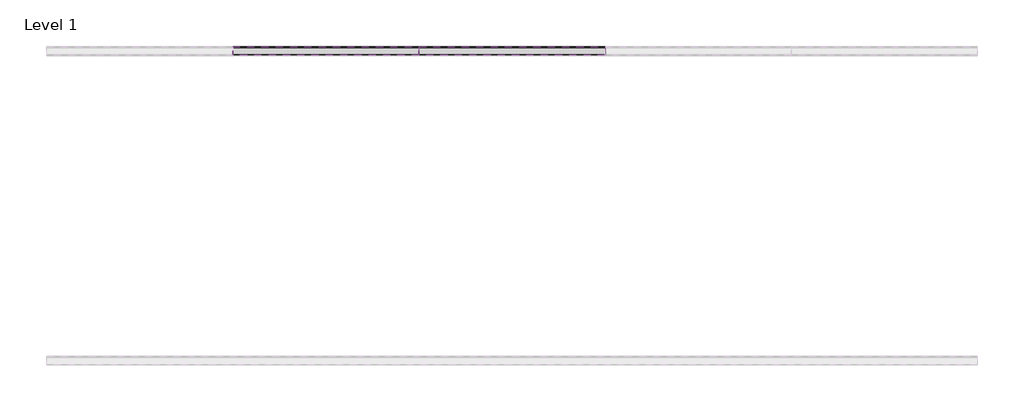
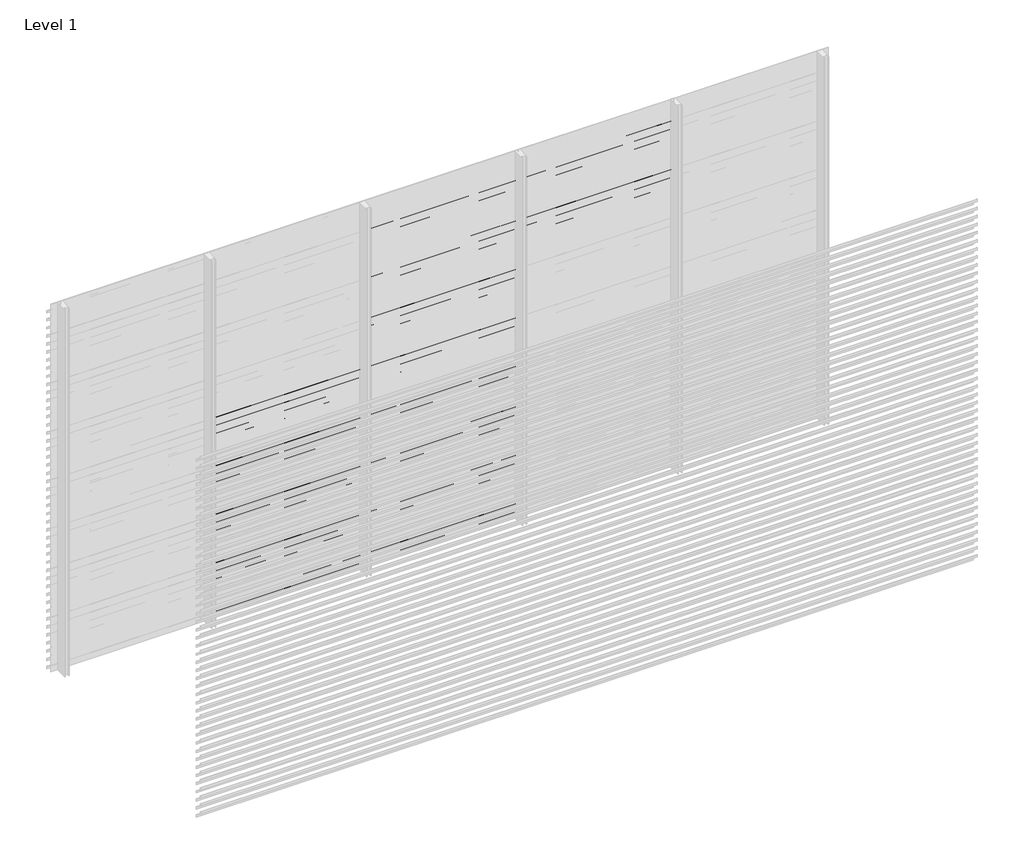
# One storey, part 81 of 540: 84 proxies.
"""IFC4 building model written with IfcOpenShell, lengths in millimetres."""

from ifc_helpers import new_model, si_unit, frame, origin, place, context, project, spatial, polyline, outline, extrude, element, save

model = new_model("IFC4")

# Units and contexts
model_context = context("Model", 3, world=origin())
ifc_project = project(units=[si_unit("LENGTHUNIT", "METRE", prefix="MILLI")], contexts=[model_context])

# Site, building, storey
site = spatial("IfcSite", under=ifc_project)
building = spatial("IfcBuilding", under=site)
storey = spatial("IfcBuildingStorey", under=building, Name="Level 1", Elevation=0.0)

# Proxies
placement = place(None, origin())
element("IfcBuildingElementProxy", 1, Name="Wall Sweeps", at=placement, inside=storey, context=model_context, shape_type="SweptSolid", body=[
    extrude(outline(polyline([(51581.0540136, 1659.5), (51581.0540136, 1639.5), (51579.8040136, 1640.2216933), (51579.8040136, 1658.7872415), (51526.0540136, 1696.3158044), (51526.0540136, 1716.0), (51527.3040136, 1716.0), (51527.3040136, 1697.0285629), (51581.0540136, 1659.5)])), frame((1666.6208099, 0.0, 0.0), z_axis=(1.0, 0.0, 0.0), x_axis=(0.0, 1.0, 0.0)), (0.0, 0.0, 1.0), 1199.9999999),
])
element("IfcBuildingElementProxy", 2, Name="Wall Sweeps", at=placement, inside=storey, context=model_context, shape_type="SweptSolid", body=[
    extrude(outline(polyline([(51581.0540136, 1593.5), (51581.0540136, 1573.5), (51579.8040136, 1574.2216933), (51579.8040136, 1592.7872415), (51526.0540136, 1630.3158044), (51526.0540136, 1650.0), (51527.3040136, 1650.0), (51527.3040136, 1631.0285629), (51581.0540136, 1593.5)])), frame((1666.6208099, 0.0, 0.0), z_axis=(1.0, 0.0, 0.0), x_axis=(0.0, 1.0, 0.0)), (0.0, 0.0, 1.0), 1199.9999999),
])
element("IfcBuildingElementProxy", 3, Name="Wall Sweeps", at=placement, inside=storey, context=model_context, shape_type="SweptSolid", body=[
    extrude(outline(polyline([(51581.0540136, 1527.5), (51581.0540136, 1507.5), (51579.8040136, 1508.2216933), (51579.8040136, 1526.7872415), (51526.0540136, 1564.3158044), (51526.0540136, 1584.0), (51527.3040136, 1584.0), (51527.3040136, 1565.0285629), (51581.0540136, 1527.5)])), frame((1666.6208099, 0.0, 0.0), z_axis=(1.0, 0.0, 0.0), x_axis=(0.0, 1.0, 0.0)), (0.0, 0.0, 1.0), 1199.9999999),
])
element("IfcBuildingElementProxy", 4, Name="Wall Sweeps", at=placement, inside=storey, context=model_context, shape_type="SweptSolid", body=[
    extrude(outline(polyline([(51581.0540136, 1461.5), (51581.0540136, 1441.5), (51579.8040136, 1442.2216933), (51579.8040136, 1460.7872415), (51526.0540136, 1498.3158044), (51526.0540136, 1518.0), (51527.3040136, 1518.0), (51527.3040136, 1499.0285629), (51581.0540136, 1461.5)])), frame((1666.6208099, 0.0, 0.0), z_axis=(1.0, 0.0, 0.0), x_axis=(0.0, 1.0, 0.0)), (0.0, 0.0, 1.0), 1199.9999999),
])
element("IfcBuildingElementProxy", 5, Name="Wall Sweeps", at=placement, inside=storey, context=model_context, shape_type="SweptSolid", body=[
    extrude(outline(polyline([(51581.0540136, 1395.5), (51581.0540136, 1375.5), (51579.8040136, 1376.2216933), (51579.8040136, 1394.7872415), (51526.0540136, 1432.3158044), (51526.0540136, 1452.0), (51527.3040136, 1452.0), (51527.3040136, 1433.0285629), (51581.0540136, 1395.5)])), frame((1666.6208099, 0.0, 0.0), z_axis=(1.0, 0.0, 0.0), x_axis=(0.0, 1.0, 0.0)), (0.0, 0.0, 1.0), 1199.9999999),
])
element("IfcBuildingElementProxy", 6, Name="Wall Sweeps", at=placement, inside=storey, context=model_context, shape_type="SweptSolid", body=[
    extrude(outline(polyline([(51581.0540136, 1329.5), (51581.0540136, 1309.5), (51579.8040136, 1310.2216933), (51579.8040136, 1328.7872415), (51526.0540136, 1366.3158044), (51526.0540136, 1386.0), (51527.3040136, 1386.0), (51527.3040136, 1367.0285629), (51581.0540136, 1329.5)])), frame((1666.6208099, 0.0, 0.0), z_axis=(1.0, 0.0, 0.0), x_axis=(0.0, 1.0, 0.0)), (0.0, 0.0, 1.0), 1199.9999999),
])
element("IfcBuildingElementProxy", 7, Name="Wall Sweeps", at=placement, inside=storey, context=model_context, shape_type="SweptSolid", body=[
    extrude(outline(polyline([(51581.0540136, 1263.5), (51581.0540136, 1243.5), (51579.8040136, 1244.2216933), (51579.8040136, 1262.7872415), (51526.0540136, 1300.3158044), (51526.0540136, 1320.0), (51527.3040136, 1320.0), (51527.3040136, 1301.0285629), (51581.0540136, 1263.5)])), frame((1666.6208099, 0.0, 0.0), z_axis=(1.0, 0.0, 0.0), x_axis=(0.0, 1.0, 0.0)), (0.0, 0.0, 1.0), 1199.9999999),
])
element("IfcBuildingElementProxy", 8, Name="Wall Sweeps", at=placement, inside=storey, context=model_context, shape_type="SweptSolid", body=[
    extrude(outline(polyline([(51581.0540136, 1197.5), (51581.0540136, 1177.5), (51579.8040136, 1178.2216933), (51579.8040136, 1196.7872415), (51526.0540136, 1234.3158044), (51526.0540136, 1254.0), (51527.3040136, 1254.0), (51527.3040136, 1235.0285629), (51581.0540136, 1197.5)])), frame((1666.6208099, 0.0, 0.0), z_axis=(1.0, 0.0, 0.0), x_axis=(0.0, 1.0, 0.0)), (0.0, 0.0, 1.0), 1199.9999999),
])
element("IfcBuildingElementProxy", 9, Name="Wall Sweeps", at=placement, inside=storey, context=model_context, shape_type="SweptSolid", body=[
    extrude(outline(polyline([(51581.0540136, 1131.5), (51581.0540136, 1111.5), (51579.8040136, 1112.2216933), (51579.8040136, 1130.7872415), (51526.0540136, 1168.3158044), (51526.0540136, 1188.0), (51527.3040136, 1188.0), (51527.3040136, 1169.0285629), (51581.0540136, 1131.5)])), frame((1666.6208099, 0.0, 0.0), z_axis=(1.0, 0.0, 0.0), x_axis=(0.0, 1.0, 0.0)), (0.0, 0.0, 1.0), 1199.9999999),
])
element("IfcBuildingElementProxy", 10, Name="Wall Sweeps", at=placement, inside=storey, context=model_context, shape_type="SweptSolid", body=[
    extrude(outline(polyline([(51581.0540136, 1065.5), (51581.0540136, 1045.5), (51579.8040136, 1046.2216933), (51579.8040136, 1064.7872415), (51526.0540136, 1102.3158044), (51526.0540136, 1122.0), (51527.3040136, 1122.0), (51527.3040136, 1103.0285629), (51581.0540136, 1065.5)])), frame((1666.6208099, 0.0, 0.0), z_axis=(1.0, 0.0, 0.0), x_axis=(0.0, 1.0, 0.0)), (0.0, 0.0, 1.0), 1199.9999999),
])
element("IfcBuildingElementProxy", 11, Name="Wall Sweeps", at=placement, inside=storey, context=model_context, shape_type="SweptSolid", body=[
    extrude(outline(polyline([(51581.0540136, 999.5), (51581.0540136, 979.5), (51579.8040136, 980.2216933), (51579.8040136, 998.7872415), (51526.0540136, 1036.3158044), (51526.0540136, 1056.0), (51527.3040136, 1056.0), (51527.3040136, 1037.0285629), (51581.0540136, 999.5)])), frame((1666.6208099, 0.0, 0.0), z_axis=(1.0, 0.0, 0.0), x_axis=(0.0, 1.0, 0.0)), (0.0, 0.0, 1.0), 1199.9999999),
])
element("IfcBuildingElementProxy", 12, Name="Wall Sweeps", at=placement, inside=storey, context=model_context, shape_type="SweptSolid", body=[
    extrude(outline(polyline([(51581.0540136, 933.5), (51581.0540136, 913.5), (51579.8040136, 914.2216933), (51579.8040136, 932.7872415), (51526.0540136, 970.3158044), (51526.0540136, 990.0), (51527.3040136, 990.0), (51527.3040136, 971.0285629), (51581.0540136, 933.5)])), frame((1666.6208099, 0.0, 0.0), z_axis=(1.0, 0.0, 0.0), x_axis=(0.0, 1.0, 0.0)), (0.0, 0.0, 1.0), 1199.9999999),
])
element("IfcBuildingElementProxy", 13, Name="Wall Sweeps", at=placement, inside=storey, context=model_context, shape_type="SweptSolid", body=[
    extrude(outline(polyline([(51581.0540136, 867.5), (51581.0540136, 847.5), (51579.8040136, 848.2216933), (51579.8040136, 866.7872415), (51526.0540136, 904.3158044), (51526.0540136, 924.0), (51527.3040136, 924.0), (51527.3040136, 905.0285629), (51581.0540136, 867.5)])), frame((1666.6208099, 0.0, 0.0), z_axis=(1.0, 0.0, 0.0), x_axis=(0.0, 1.0, 0.0)), (0.0, 0.0, 1.0), 1199.9999999),
])
element("IfcBuildingElementProxy", 14, Name="Wall Sweeps", at=placement, inside=storey, context=model_context, shape_type="SweptSolid", body=[
    extrude(outline(polyline([(51581.0540136, 801.5), (51581.0540136, 781.5), (51579.8040136, 782.2216933), (51579.8040136, 800.7872415), (51526.0540136, 838.3158044), (51526.0540136, 858.0), (51527.3040136, 858.0), (51527.3040136, 839.0285629), (51581.0540136, 801.5)])), frame((1666.6208099, 0.0, 0.0), z_axis=(1.0, 0.0, 0.0), x_axis=(0.0, 1.0, 0.0)), (0.0, 0.0, 1.0), 1199.9999999),
])
element("IfcBuildingElementProxy", 15, Name="Wall Sweeps", at=placement, inside=storey, context=model_context, shape_type="SweptSolid", body=[
    extrude(outline(polyline([(51581.0540136, 735.5), (51581.0540136, 715.5), (51579.8040136, 716.2216933), (51579.8040136, 734.7872415), (51526.0540136, 772.3158044), (51526.0540136, 792.0), (51527.3040136, 792.0), (51527.3040136, 773.0285629), (51581.0540136, 735.5)])), frame((1666.6208099, 0.0, 0.0), z_axis=(1.0, 0.0, 0.0), x_axis=(0.0, 1.0, 0.0)), (0.0, 0.0, 1.0), 1199.9999999),
])
element("IfcBuildingElementProxy", 16, Name="Wall Sweeps", at=placement, inside=storey, context=model_context, shape_type="SweptSolid", body=[
    extrude(outline(polyline([(51581.0540136, 669.5), (51581.0540136, 649.5), (51579.8040136, 650.2216933), (51579.8040136, 668.7872415), (51526.0540136, 706.3158044), (51526.0540136, 726.0), (51527.3040136, 726.0), (51527.3040136, 707.0285629), (51581.0540136, 669.5)])), frame((1666.6208099, 0.0, 0.0), z_axis=(1.0, 0.0, 0.0), x_axis=(0.0, 1.0, 0.0)), (0.0, 0.0, 1.0), 1199.9999999),
])
element("IfcBuildingElementProxy", 17, Name="Wall Sweeps", at=placement, inside=storey, context=model_context, shape_type="SweptSolid", body=[
    extrude(outline(polyline([(51581.0540136, 603.5), (51581.0540136, 583.5), (51579.8040136, 584.2216933), (51579.8040136, 602.7872415), (51526.0540136, 640.3158044), (51526.0540136, 660.0), (51527.3040136, 660.0), (51527.3040136, 641.0285629), (51581.0540136, 603.5)])), frame((1666.6208099, 0.0, 0.0), z_axis=(1.0, 0.0, 0.0), x_axis=(0.0, 1.0, 0.0)), (0.0, 0.0, 1.0), 1199.9999999),
])
element("IfcBuildingElementProxy", 18, Name="Wall Sweeps", at=placement, inside=storey, context=model_context, shape_type="SweptSolid", body=[
    extrude(outline(polyline([(51581.0540136, 537.5), (51581.0540136, 517.5), (51579.8040136, 518.2216933), (51579.8040136, 536.7872415), (51526.0540136, 574.3158044), (51526.0540136, 594.0), (51527.3040136, 594.0), (51527.3040136, 575.0285629), (51581.0540136, 537.5)])), frame((1666.6208099, 0.0, 0.0), z_axis=(1.0, 0.0, 0.0), x_axis=(0.0, 1.0, 0.0)), (0.0, 0.0, 1.0), 1199.9999999),
])
element("IfcBuildingElementProxy", 19, Name="Wall Sweeps", at=placement, inside=storey, context=model_context, shape_type="SweptSolid", body=[
    extrude(outline(polyline([(51581.0540136, 471.5), (51581.0540136, 451.5), (51579.8040136, 452.2216933), (51579.8040136, 470.7872415), (51526.0540136, 508.3158044), (51526.0540136, 528.0), (51527.3040136, 528.0), (51527.3040136, 509.0285629), (51581.0540136, 471.5)])), frame((1666.6208099, 0.0, 0.0), z_axis=(1.0, 0.0, 0.0), x_axis=(0.0, 1.0, 0.0)), (0.0, 0.0, 1.0), 1199.9999999),
])
element("IfcBuildingElementProxy", 20, Name="Wall Sweeps", at=placement, inside=storey, context=model_context, shape_type="SweptSolid", body=[
    extrude(outline(polyline([(51581.0540136, 405.5), (51581.0540136, 385.5), (51579.8040136, 386.2216933), (51579.8040136, 404.7872415), (51526.0540136, 442.3158044), (51526.0540136, 462.0), (51527.3040136, 462.0), (51527.3040136, 443.0285629), (51581.0540136, 405.5)])), frame((1666.6208099, 0.0, 0.0), z_axis=(1.0, 0.0, 0.0), x_axis=(0.0, 1.0, 0.0)), (0.0, 0.0, 1.0), 1199.9999999),
])
element("IfcBuildingElementProxy", 21, Name="Wall Sweeps", at=placement, inside=storey, context=model_context, shape_type="SweptSolid", body=[
    extrude(outline(polyline([(51581.0540136, 339.5), (51581.0540136, 319.5), (51579.8040136, 320.2216933), (51579.8040136, 338.7872415), (51526.0540136, 376.3158044), (51526.0540136, 396.0), (51527.3040136, 396.0), (51527.3040136, 377.0285629), (51581.0540136, 339.5)])), frame((1666.6208099, 0.0, 0.0), z_axis=(1.0, 0.0, 0.0), x_axis=(0.0, 1.0, 0.0)), (0.0, 0.0, 1.0), 1199.9999999),
])
element("IfcBuildingElementProxy", 22, Name="Wall Sweeps", at=placement, inside=storey, context=model_context, shape_type="SweptSolid", body=[
    extrude(outline(polyline([(51581.0540136, 273.5), (51581.0540136, 253.5), (51579.8040136, 254.2216933), (51579.8040136, 272.7872415), (51526.0540136, 310.3158044), (51526.0540136, 330.0), (51527.3040136, 330.0), (51527.3040136, 311.0285629), (51581.0540136, 273.5)])), frame((1666.6208099, 0.0, 0.0), z_axis=(1.0, 0.0, 0.0), x_axis=(0.0, 1.0, 0.0)), (0.0, 0.0, 1.0), 1199.9999999),
])
element("IfcBuildingElementProxy", 23, Name="Wall Sweeps", at=placement, inside=storey, context=model_context, shape_type="SweptSolid", body=[
    extrude(outline(polyline([(51581.0540136, 207.5), (51581.0540136, 187.5), (51579.8040136, 188.2216933), (51579.8040136, 206.7872415), (51526.0540136, 244.3158044), (51526.0540136, 264.0), (51527.3040136, 264.0), (51527.3040136, 245.0285629), (51581.0540136, 207.5)])), frame((1666.6208099, 0.0, 0.0), z_axis=(1.0, 0.0, 0.0), x_axis=(0.0, 1.0, 0.0)), (0.0, 0.0, 1.0), 1199.9999999),
])
element("IfcBuildingElementProxy", 24, Name="Wall Sweeps", at=placement, inside=storey, context=model_context, shape_type="SweptSolid", body=[
    extrude(outline(polyline([(51581.0540136, 141.5), (51581.0540136, 121.5), (51579.8040136, 122.2216933), (51579.8040136, 140.7872415), (51526.0540136, 178.3158044), (51526.0540136, 198.0), (51527.3040136, 198.0), (51527.3040136, 179.0285629), (51581.0540136, 141.5)])), frame((1666.6208099, 0.0, 0.0), z_axis=(1.0, 0.0, 0.0), x_axis=(0.0, 1.0, 0.0)), (0.0, 0.0, 1.0), 1199.9999999),
])
element("IfcBuildingElementProxy", 25, Name="Wall Sweeps", at=placement, inside=storey, context=model_context, shape_type="SweptSolid", body=[
    extrude(outline(polyline([(51581.0540136, 75.5), (51581.0540136, 55.5), (51579.8040136, 56.2216933), (51579.8040136, 74.7872415), (51526.0540136, 112.3158044), (51526.0540136, 132.0), (51527.3040136, 132.0), (51527.3040136, 113.0285629), (51581.0540136, 75.5)])), frame((1666.6208099, 0.0, 0.0), z_axis=(1.0, 0.0, 0.0), x_axis=(0.0, 1.0, 0.0)), (0.0, 0.0, 1.0), 1199.9999999),
])
element("IfcBuildingElementProxy", 26, Name="Wall Sweeps", at=placement, inside=storey, context=model_context, shape_type="SweptSolid", body=[
    extrude(outline(polyline([(51581.0540136, 9.5), (51581.0540136, -10.5), (51579.8040136, -9.7783067), (51579.8040136, 8.7872415), (51526.0540136, 46.3158044), (51526.0540136, 66.0), (51527.3040136, 66.0), (51527.3040136, 47.0285629), (51581.0540136, 9.5)])), frame((1666.6208099, 0.0, 0.0), z_axis=(1.0, 0.0, 0.0), x_axis=(0.0, 1.0, 0.0)), (0.0, 0.0, 1.0), 1199.9999999),
])
element("IfcBuildingElementProxy", 27, Name="Wall Sweeps", at=placement, inside=storey, context=model_context, shape_type="SweptSolid", body=[
    extrude(outline(polyline([(51581.0540136, 2913.5), (51581.0540136, 2893.5), (51579.8040136, 2894.2216933), (51579.8040136, 2912.7872415), (51526.0540136, 2950.3158044), (51526.0540136, 2970.0), (51527.3040136, 2970.0), (51527.3040136, 2951.0285629), (51581.0540136, 2913.5)])), frame((2866.6208097, 0.0, 0.0), z_axis=(1.0, 0.0, 0.0), x_axis=(0.0, 1.0, 0.0)), (0.0, 0.0, 1.0), 1199.9999999),
])
element("IfcBuildingElementProxy", 28, Name="Wall Sweeps", at=placement, inside=storey, context=model_context, shape_type="SweptSolid", body=[
    extrude(outline(polyline([(51581.0540136, 2847.5), (51581.0540136, 2827.5), (51579.8040136, 2828.2216933), (51579.8040136, 2846.7872415), (51526.0540136, 2884.3158044), (51526.0540136, 2904.0), (51527.3040136, 2904.0), (51527.3040136, 2885.0285629), (51581.0540136, 2847.5)])), frame((2866.6208097, 0.0, 0.0), z_axis=(1.0, 0.0, 0.0), x_axis=(0.0, 1.0, 0.0)), (0.0, 0.0, 1.0), 1199.9999999),
])
element("IfcBuildingElementProxy", 29, Name="Wall Sweeps", at=placement, inside=storey, context=model_context, shape_type="SweptSolid", body=[
    extrude(outline(polyline([(51581.0540136, 2781.5), (51581.0540136, 2761.5), (51579.8040136, 2762.2216933), (51579.8040136, 2780.7872415), (51526.0540136, 2818.3158044), (51526.0540136, 2838.0), (51527.3040136, 2838.0), (51527.3040136, 2819.0285629), (51581.0540136, 2781.5)])), frame((2866.6208097, 0.0, 0.0), z_axis=(1.0, 0.0, 0.0), x_axis=(0.0, 1.0, 0.0)), (0.0, 0.0, 1.0), 1199.9999999),
])
element("IfcBuildingElementProxy", 30, Name="Wall Sweeps", at=placement, inside=storey, context=model_context, shape_type="SweptSolid", body=[
    extrude(outline(polyline([(51581.0540136, 2715.5), (51581.0540136, 2695.5), (51579.8040136, 2696.2216933), (51579.8040136, 2714.7872415), (51526.0540136, 2752.3158044), (51526.0540136, 2772.0), (51527.3040136, 2772.0), (51527.3040136, 2753.0285629), (51581.0540136, 2715.5)])), frame((2866.6208097, 0.0, 0.0), z_axis=(1.0, 0.0, 0.0), x_axis=(0.0, 1.0, 0.0)), (0.0, 0.0, 1.0), 1199.9999999),
])
element("IfcBuildingElementProxy", 31, Name="Wall Sweeps", at=placement, inside=storey, context=model_context, shape_type="SweptSolid", body=[
    extrude(outline(polyline([(51581.0540136, 2649.5), (51581.0540136, 2629.5), (51579.8040136, 2630.2216933), (51579.8040136, 2648.7872415), (51526.0540136, 2686.3158044), (51526.0540136, 2706.0), (51527.3040136, 2706.0), (51527.3040136, 2687.0285629), (51581.0540136, 2649.5)])), frame((2866.6208097, 0.0, 0.0), z_axis=(1.0, 0.0, 0.0), x_axis=(0.0, 1.0, 0.0)), (0.0, 0.0, 1.0), 1199.9999999),
])
element("IfcBuildingElementProxy", 32, Name="Wall Sweeps", at=placement, inside=storey, context=model_context, shape_type="SweptSolid", body=[
    extrude(outline(polyline([(51581.0540136, 2583.5), (51581.0540136, 2563.5), (51579.8040136, 2564.2216933), (51579.8040136, 2582.7872415), (51526.0540136, 2620.3158044), (51526.0540136, 2640.0), (51527.3040136, 2640.0), (51527.3040136, 2621.0285629), (51581.0540136, 2583.5)])), frame((2866.6208097, 0.0, 0.0), z_axis=(1.0, 0.0, 0.0), x_axis=(0.0, 1.0, 0.0)), (0.0, 0.0, 1.0), 1199.9999999),
])
element("IfcBuildingElementProxy", 33, Name="Wall Sweeps", at=placement, inside=storey, context=model_context, shape_type="SweptSolid", body=[
    extrude(outline(polyline([(51581.0540136, 2517.5), (51581.0540136, 2497.5), (51579.8040136, 2498.2216933), (51579.8040136, 2516.7872415), (51526.0540136, 2554.3158044), (51526.0540136, 2574.0), (51527.3040136, 2574.0), (51527.3040136, 2555.0285629), (51581.0540136, 2517.5)])), frame((2866.6208097, 0.0, 0.0), z_axis=(1.0, 0.0, 0.0), x_axis=(0.0, 1.0, 0.0)), (0.0, 0.0, 1.0), 1199.9999999),
])
element("IfcBuildingElementProxy", 34, Name="Wall Sweeps", at=placement, inside=storey, context=model_context, shape_type="SweptSolid", body=[
    extrude(outline(polyline([(51581.0540136, 2451.5), (51581.0540136, 2431.5), (51579.8040136, 2432.2216933), (51579.8040136, 2450.7872415), (51526.0540136, 2488.3158044), (51526.0540136, 2508.0), (51527.3040136, 2508.0), (51527.3040136, 2489.0285629), (51581.0540136, 2451.5)])), frame((2866.6208097, 0.0, 0.0), z_axis=(1.0, 0.0, 0.0), x_axis=(0.0, 1.0, 0.0)), (0.0, 0.0, 1.0), 1199.9999999),
])
element("IfcBuildingElementProxy", 35, Name="Wall Sweeps", at=placement, inside=storey, context=model_context, shape_type="SweptSolid", body=[
    extrude(outline(polyline([(51581.0540136, 2385.5), (51581.0540136, 2365.5), (51579.8040136, 2366.2216933), (51579.8040136, 2384.7872415), (51526.0540136, 2422.3158044), (51526.0540136, 2442.0), (51527.3040136, 2442.0), (51527.3040136, 2423.0285629), (51581.0540136, 2385.5)])), frame((2866.6208097, 0.0, 0.0), z_axis=(1.0, 0.0, 0.0), x_axis=(0.0, 1.0, 0.0)), (0.0, 0.0, 1.0), 1199.9999999),
])
element("IfcBuildingElementProxy", 36, Name="Wall Sweeps", at=placement, inside=storey, context=model_context, shape_type="SweptSolid", body=[
    extrude(outline(polyline([(51581.0540136, 2319.5), (51581.0540136, 2299.5), (51579.8040136, 2300.2216933), (51579.8040136, 2318.7872415), (51526.0540136, 2356.3158044), (51526.0540136, 2376.0), (51527.3040136, 2376.0), (51527.3040136, 2357.0285629), (51581.0540136, 2319.5)])), frame((2866.6208097, 0.0, 0.0), z_axis=(1.0, 0.0, 0.0), x_axis=(0.0, 1.0, 0.0)), (0.0, 0.0, 1.0), 1199.9999999),
])
element("IfcBuildingElementProxy", 37, Name="Wall Sweeps", at=placement, inside=storey, context=model_context, shape_type="SweptSolid", body=[
    extrude(outline(polyline([(51581.0540136, 2253.5), (51581.0540136, 2233.5), (51579.8040136, 2234.2216933), (51579.8040136, 2252.7872415), (51526.0540136, 2290.3158044), (51526.0540136, 2310.0), (51527.3040136, 2310.0), (51527.3040136, 2291.0285629), (51581.0540136, 2253.5)])), frame((2866.6208097, 0.0, 0.0), z_axis=(1.0, 0.0, 0.0), x_axis=(0.0, 1.0, 0.0)), (0.0, 0.0, 1.0), 1199.9999999),
])
element("IfcBuildingElementProxy", 38, Name="Wall Sweeps", at=placement, inside=storey, context=model_context, shape_type="SweptSolid", body=[
    extrude(outline(polyline([(51581.0540136, 2187.5), (51581.0540136, 2167.5), (51579.8040136, 2168.2216933), (51579.8040136, 2186.7872415), (51526.0540136, 2224.3158044), (51526.0540136, 2244.0), (51527.3040136, 2244.0), (51527.3040136, 2225.0285629), (51581.0540136, 2187.5)])), frame((2866.6208097, 0.0, 0.0), z_axis=(1.0, 0.0, 0.0), x_axis=(0.0, 1.0, 0.0)), (0.0, 0.0, 1.0), 1199.9999999),
])
element("IfcBuildingElementProxy", 39, Name="Wall Sweeps", at=placement, inside=storey, context=model_context, shape_type="SweptSolid", body=[
    extrude(outline(polyline([(51581.0540136, 2121.5), (51581.0540136, 2101.5), (51579.8040136, 2102.2216933), (51579.8040136, 2120.7872415), (51526.0540136, 2158.3158044), (51526.0540136, 2178.0), (51527.3040136, 2178.0), (51527.3040136, 2159.0285629), (51581.0540136, 2121.5)])), frame((2866.6208097, 0.0, 0.0), z_axis=(1.0, 0.0, 0.0), x_axis=(0.0, 1.0, 0.0)), (0.0, 0.0, 1.0), 1199.9999999),
])
element("IfcBuildingElementProxy", 40, Name="Wall Sweeps", at=placement, inside=storey, context=model_context, shape_type="SweptSolid", body=[
    extrude(outline(polyline([(51581.0540136, 2055.5), (51581.0540136, 2035.5), (51579.8040136, 2036.2216933), (51579.8040136, 2054.7872415), (51526.0540136, 2092.3158044), (51526.0540136, 2112.0), (51527.3040136, 2112.0), (51527.3040136, 2093.0285629), (51581.0540136, 2055.5)])), frame((2866.6208097, 0.0, 0.0), z_axis=(1.0, 0.0, 0.0), x_axis=(0.0, 1.0, 0.0)), (0.0, 0.0, 1.0), 1199.9999999),
])
element("IfcBuildingElementProxy", 41, Name="Wall Sweeps", at=placement, inside=storey, context=model_context, shape_type="SweptSolid", body=[
    extrude(outline(polyline([(51581.0540136, 1989.5), (51581.0540136, 1969.5), (51579.8040136, 1970.2216933), (51579.8040136, 1988.7872415), (51526.0540136, 2026.3158044), (51526.0540136, 2046.0), (51527.3040136, 2046.0), (51527.3040136, 2027.0285629), (51581.0540136, 1989.5)])), frame((2866.6208097, 0.0, 0.0), z_axis=(1.0, 0.0, 0.0), x_axis=(0.0, 1.0, 0.0)), (0.0, 0.0, 1.0), 1199.9999999),
])
element("IfcBuildingElementProxy", 42, Name="Wall Sweeps", at=placement, inside=storey, context=model_context, shape_type="SweptSolid", body=[
    extrude(outline(polyline([(51581.0540136, 1923.5), (51581.0540136, 1903.5), (51579.8040136, 1904.2216933), (51579.8040136, 1922.7872415), (51526.0540136, 1960.3158044), (51526.0540136, 1980.0), (51527.3040136, 1980.0), (51527.3040136, 1961.0285629), (51581.0540136, 1923.5)])), frame((2866.6208097, 0.0, 0.0), z_axis=(1.0, 0.0, 0.0), x_axis=(0.0, 1.0, 0.0)), (0.0, 0.0, 1.0), 1199.9999999),
])
element("IfcBuildingElementProxy", 43, Name="Wall Sweeps", at=placement, inside=storey, context=model_context, shape_type="SweptSolid", body=[
    extrude(outline(polyline([(51581.0540136, 1857.5), (51581.0540136, 1837.5), (51579.8040136, 1838.2216933), (51579.8040136, 1856.7872415), (51526.0540136, 1894.3158044), (51526.0540136, 1914.0), (51527.3040136, 1914.0), (51527.3040136, 1895.0285629), (51581.0540136, 1857.5)])), frame((2866.6208097, 0.0, 0.0), z_axis=(1.0, 0.0, 0.0), x_axis=(0.0, 1.0, 0.0)), (0.0, 0.0, 1.0), 1199.9999999),
])
element("IfcBuildingElementProxy", 44, Name="Wall Sweeps", at=placement, inside=storey, context=model_context, shape_type="SweptSolid", body=[
    extrude(outline(polyline([(51581.0540136, 1791.5), (51581.0540136, 1771.5), (51579.8040136, 1772.2216933), (51579.8040136, 1790.7872415), (51526.0540136, 1828.3158044), (51526.0540136, 1848.0), (51527.3040136, 1848.0), (51527.3040136, 1829.0285629), (51581.0540136, 1791.5)])), frame((2866.6208097, 0.0, 0.0), z_axis=(1.0, 0.0, 0.0), x_axis=(0.0, 1.0, 0.0)), (0.0, 0.0, 1.0), 1199.9999999),
])
element("IfcBuildingElementProxy", 45, Name="Wall Sweeps", at=placement, inside=storey, context=model_context, shape_type="SweptSolid", body=[
    extrude(outline(polyline([(51581.0540136, 1725.5), (51581.0540136, 1705.5), (51579.8040136, 1706.2216933), (51579.8040136, 1724.7872415), (51526.0540136, 1762.3158044), (51526.0540136, 1782.0), (51527.3040136, 1782.0), (51527.3040136, 1763.0285629), (51581.0540136, 1725.5)])), frame((2866.6208097, 0.0, 0.0), z_axis=(1.0, 0.0, 0.0), x_axis=(0.0, 1.0, 0.0)), (0.0, 0.0, 1.0), 1199.9999999),
])
element("IfcBuildingElementProxy", 46, Name="Wall Sweeps", at=placement, inside=storey, context=model_context, shape_type="SweptSolid", body=[
    extrude(outline(polyline([(51581.0540136, 1659.5), (51581.0540136, 1639.5), (51579.8040136, 1640.2216933), (51579.8040136, 1658.7872415), (51526.0540136, 1696.3158044), (51526.0540136, 1716.0), (51527.3040136, 1716.0), (51527.3040136, 1697.0285629), (51581.0540136, 1659.5)])), frame((2866.6208097, 0.0, 0.0), z_axis=(1.0, 0.0, 0.0), x_axis=(0.0, 1.0, 0.0)), (0.0, 0.0, 1.0), 1199.9999999),
])
element("IfcBuildingElementProxy", 47, Name="Wall Sweeps", at=placement, inside=storey, context=model_context, shape_type="SweptSolid", body=[
    extrude(outline(polyline([(51581.0540136, 1593.5), (51581.0540136, 1573.5), (51579.8040136, 1574.2216933), (51579.8040136, 1592.7872415), (51526.0540136, 1630.3158044), (51526.0540136, 1650.0), (51527.3040136, 1650.0), (51527.3040136, 1631.0285629), (51581.0540136, 1593.5)])), frame((2866.6208097, 0.0, 0.0), z_axis=(1.0, 0.0, 0.0), x_axis=(0.0, 1.0, 0.0)), (0.0, 0.0, 1.0), 1199.9999999),
])
element("IfcBuildingElementProxy", 48, Name="Wall Sweeps", at=placement, inside=storey, context=model_context, shape_type="SweptSolid", body=[
    extrude(outline(polyline([(51581.0540136, 1527.5), (51581.0540136, 1507.5), (51579.8040136, 1508.2216933), (51579.8040136, 1526.7872415), (51526.0540136, 1564.3158044), (51526.0540136, 1584.0), (51527.3040136, 1584.0), (51527.3040136, 1565.0285629), (51581.0540136, 1527.5)])), frame((2866.6208097, 0.0, 0.0), z_axis=(1.0, 0.0, 0.0), x_axis=(0.0, 1.0, 0.0)), (0.0, 0.0, 1.0), 1199.9999999),
])
element("IfcBuildingElementProxy", 49, Name="Wall Sweeps", at=placement, inside=storey, context=model_context, shape_type="SweptSolid", body=[
    extrude(outline(polyline([(51581.0540136, 1461.5), (51581.0540136, 1441.5), (51579.8040136, 1442.2216933), (51579.8040136, 1460.7872415), (51526.0540136, 1498.3158044), (51526.0540136, 1518.0), (51527.3040136, 1518.0), (51527.3040136, 1499.0285629), (51581.0540136, 1461.5)])), frame((2866.6208097, 0.0, 0.0), z_axis=(1.0, 0.0, 0.0), x_axis=(0.0, 1.0, 0.0)), (0.0, 0.0, 1.0), 1199.9999999),
])
element("IfcBuildingElementProxy", 50, Name="Wall Sweeps", at=placement, inside=storey, context=model_context, shape_type="SweptSolid", body=[
    extrude(outline(polyline([(51581.0540136, 1395.5), (51581.0540136, 1375.5), (51579.8040136, 1376.2216933), (51579.8040136, 1394.7872415), (51526.0540136, 1432.3158044), (51526.0540136, 1452.0), (51527.3040136, 1452.0), (51527.3040136, 1433.0285629), (51581.0540136, 1395.5)])), frame((2866.6208097, 0.0, 0.0), z_axis=(1.0, 0.0, 0.0), x_axis=(0.0, 1.0, 0.0)), (0.0, 0.0, 1.0), 1199.9999999),
])
element("IfcBuildingElementProxy", 51, Name="Wall Sweeps", at=placement, inside=storey, context=model_context, shape_type="SweptSolid", body=[
    extrude(outline(polyline([(51581.0540136, 1329.5), (51581.0540136, 1309.5), (51579.8040136, 1310.2216933), (51579.8040136, 1328.7872415), (51526.0540136, 1366.3158044), (51526.0540136, 1386.0), (51527.3040136, 1386.0), (51527.3040136, 1367.0285629), (51581.0540136, 1329.5)])), frame((2866.6208097, 0.0, 0.0), z_axis=(1.0, 0.0, 0.0), x_axis=(0.0, 1.0, 0.0)), (0.0, 0.0, 1.0), 1199.9999999),
])
element("IfcBuildingElementProxy", 52, Name="Wall Sweeps", at=placement, inside=storey, context=model_context, shape_type="SweptSolid", body=[
    extrude(outline(polyline([(51581.0540136, 1263.5), (51581.0540136, 1243.5), (51579.8040136, 1244.2216933), (51579.8040136, 1262.7872415), (51526.0540136, 1300.3158044), (51526.0540136, 1320.0), (51527.3040136, 1320.0), (51527.3040136, 1301.0285629), (51581.0540136, 1263.5)])), frame((2866.6208097, 0.0, 0.0), z_axis=(1.0, 0.0, 0.0), x_axis=(0.0, 1.0, 0.0)), (0.0, 0.0, 1.0), 1199.9999999),
])
element("IfcBuildingElementProxy", 53, Name="Wall Sweeps", at=placement, inside=storey, context=model_context, shape_type="SweptSolid", body=[
    extrude(outline(polyline([(51581.0540136, 1197.5), (51581.0540136, 1177.5), (51579.8040136, 1178.2216933), (51579.8040136, 1196.7872415), (51526.0540136, 1234.3158044), (51526.0540136, 1254.0), (51527.3040136, 1254.0), (51527.3040136, 1235.0285629), (51581.0540136, 1197.5)])), frame((2866.6208097, 0.0, 0.0), z_axis=(1.0, 0.0, 0.0), x_axis=(0.0, 1.0, 0.0)), (0.0, 0.0, 1.0), 1199.9999999),
])
element("IfcBuildingElementProxy", 54, Name="Wall Sweeps", at=placement, inside=storey, context=model_context, shape_type="SweptSolid", body=[
    extrude(outline(polyline([(51581.0540136, 1131.5), (51581.0540136, 1111.5), (51579.8040136, 1112.2216933), (51579.8040136, 1130.7872415), (51526.0540136, 1168.3158044), (51526.0540136, 1188.0), (51527.3040136, 1188.0), (51527.3040136, 1169.0285629), (51581.0540136, 1131.5)])), frame((2866.6208097, 0.0, 0.0), z_axis=(1.0, 0.0, 0.0), x_axis=(0.0, 1.0, 0.0)), (0.0, 0.0, 1.0), 1199.9999999),
])
element("IfcBuildingElementProxy", 55, Name="Wall Sweeps", at=placement, inside=storey, context=model_context, shape_type="SweptSolid", body=[
    extrude(outline(polyline([(51581.0540136, 1065.5), (51581.0540136, 1045.5), (51579.8040136, 1046.2216933), (51579.8040136, 1064.7872415), (51526.0540136, 1102.3158044), (51526.0540136, 1122.0), (51527.3040136, 1122.0), (51527.3040136, 1103.0285629), (51581.0540136, 1065.5)])), frame((2866.6208097, 0.0, 0.0), z_axis=(1.0, 0.0, 0.0), x_axis=(0.0, 1.0, 0.0)), (0.0, 0.0, 1.0), 1199.9999999),
])
element("IfcBuildingElementProxy", 56, Name="Wall Sweeps", at=placement, inside=storey, context=model_context, shape_type="SweptSolid", body=[
    extrude(outline(polyline([(51581.0540136, 999.5), (51581.0540136, 979.5), (51579.8040136, 980.2216933), (51579.8040136, 998.7872415), (51526.0540136, 1036.3158044), (51526.0540136, 1056.0), (51527.3040136, 1056.0), (51527.3040136, 1037.0285629), (51581.0540136, 999.5)])), frame((2866.6208097, 0.0, 0.0), z_axis=(1.0, 0.0, 0.0), x_axis=(0.0, 1.0, 0.0)), (0.0, 0.0, 1.0), 1199.9999999),
])
element("IfcBuildingElementProxy", 57, Name="Wall Sweeps", at=placement, inside=storey, context=model_context, shape_type="SweptSolid", body=[
    extrude(outline(polyline([(51581.0540136, 933.5), (51581.0540136, 913.5), (51579.8040136, 914.2216933), (51579.8040136, 932.7872415), (51526.0540136, 970.3158044), (51526.0540136, 990.0), (51527.3040136, 990.0), (51527.3040136, 971.0285629), (51581.0540136, 933.5)])), frame((2866.6208097, 0.0, 0.0), z_axis=(1.0, 0.0, 0.0), x_axis=(0.0, 1.0, 0.0)), (0.0, 0.0, 1.0), 1199.9999999),
])
element("IfcBuildingElementProxy", 58, Name="Wall Sweeps", at=placement, inside=storey, context=model_context, shape_type="SweptSolid", body=[
    extrude(outline(polyline([(51581.0540136, 867.5), (51581.0540136, 847.5), (51579.8040136, 848.2216933), (51579.8040136, 866.7872415), (51526.0540136, 904.3158044), (51526.0540136, 924.0), (51527.3040136, 924.0), (51527.3040136, 905.0285629), (51581.0540136, 867.5)])), frame((2866.6208097, 0.0, 0.0), z_axis=(1.0, 0.0, 0.0), x_axis=(0.0, 1.0, 0.0)), (0.0, 0.0, 1.0), 1199.9999999),
])
element("IfcBuildingElementProxy", 59, Name="Wall Sweeps", at=placement, inside=storey, context=model_context, shape_type="SweptSolid", body=[
    extrude(outline(polyline([(51581.0540136, 801.5), (51581.0540136, 781.5), (51579.8040136, 782.2216933), (51579.8040136, 800.7872415), (51526.0540136, 838.3158044), (51526.0540136, 858.0), (51527.3040136, 858.0), (51527.3040136, 839.0285629), (51581.0540136, 801.5)])), frame((2866.6208097, 0.0, 0.0), z_axis=(1.0, 0.0, 0.0), x_axis=(0.0, 1.0, 0.0)), (0.0, 0.0, 1.0), 1199.9999999),
])
element("IfcBuildingElementProxy", 60, Name="Wall Sweeps", at=placement, inside=storey, context=model_context, shape_type="SweptSolid", body=[
    extrude(outline(polyline([(51581.0540136, 735.5), (51581.0540136, 715.5), (51579.8040136, 716.2216933), (51579.8040136, 734.7872415), (51526.0540136, 772.3158044), (51526.0540136, 792.0), (51527.3040136, 792.0), (51527.3040136, 773.0285629), (51581.0540136, 735.5)])), frame((2866.6208097, 0.0, 0.0), z_axis=(1.0, 0.0, 0.0), x_axis=(0.0, 1.0, 0.0)), (0.0, 0.0, 1.0), 1199.9999999),
])
element("IfcBuildingElementProxy", 61, Name="Wall Sweeps", at=placement, inside=storey, context=model_context, shape_type="SweptSolid", body=[
    extrude(outline(polyline([(51581.0540136, 669.5), (51581.0540136, 649.5), (51579.8040136, 650.2216933), (51579.8040136, 668.7872415), (51526.0540136, 706.3158044), (51526.0540136, 726.0), (51527.3040136, 726.0), (51527.3040136, 707.0285629), (51581.0540136, 669.5)])), frame((2866.6208097, 0.0, 0.0), z_axis=(1.0, 0.0, 0.0), x_axis=(0.0, 1.0, 0.0)), (0.0, 0.0, 1.0), 1199.9999999),
])
element("IfcBuildingElementProxy", 62, Name="Wall Sweeps", at=placement, inside=storey, context=model_context, shape_type="SweptSolid", body=[
    extrude(outline(polyline([(51581.0540136, 603.5), (51581.0540136, 583.5), (51579.8040136, 584.2216933), (51579.8040136, 602.7872415), (51526.0540136, 640.3158044), (51526.0540136, 660.0), (51527.3040136, 660.0), (51527.3040136, 641.0285629), (51581.0540136, 603.5)])), frame((2866.6208097, 0.0, 0.0), z_axis=(1.0, 0.0, 0.0), x_axis=(0.0, 1.0, 0.0)), (0.0, 0.0, 1.0), 1199.9999999),
])
element("IfcBuildingElementProxy", 63, Name="Wall Sweeps", at=placement, inside=storey, context=model_context, shape_type="SweptSolid", body=[
    extrude(outline(polyline([(51581.0540136, 537.5), (51581.0540136, 517.5), (51579.8040136, 518.2216933), (51579.8040136, 536.7872415), (51526.0540136, 574.3158044), (51526.0540136, 594.0), (51527.3040136, 594.0), (51527.3040136, 575.0285629), (51581.0540136, 537.5)])), frame((2866.6208097, 0.0, 0.0), z_axis=(1.0, 0.0, 0.0), x_axis=(0.0, 1.0, 0.0)), (0.0, 0.0, 1.0), 1199.9999999),
])
element("IfcBuildingElementProxy", 64, Name="Wall Sweeps", at=placement, inside=storey, context=model_context, shape_type="SweptSolid", body=[
    extrude(outline(polyline([(51581.0540136, 471.5), (51581.0540136, 451.5), (51579.8040136, 452.2216933), (51579.8040136, 470.7872415), (51526.0540136, 508.3158044), (51526.0540136, 528.0), (51527.3040136, 528.0), (51527.3040136, 509.0285629), (51581.0540136, 471.5)])), frame((2866.6208097, 0.0, 0.0), z_axis=(1.0, 0.0, 0.0), x_axis=(0.0, 1.0, 0.0)), (0.0, 0.0, 1.0), 1199.9999999),
])
element("IfcBuildingElementProxy", 65, Name="Wall Sweeps", at=placement, inside=storey, context=model_context, shape_type="SweptSolid", body=[
    extrude(outline(polyline([(51581.0540136, 405.5), (51581.0540136, 385.5), (51579.8040136, 386.2216933), (51579.8040136, 404.7872415), (51526.0540136, 442.3158044), (51526.0540136, 462.0), (51527.3040136, 462.0), (51527.3040136, 443.0285629), (51581.0540136, 405.5)])), frame((2866.6208097, 0.0, 0.0), z_axis=(1.0, 0.0, 0.0), x_axis=(0.0, 1.0, 0.0)), (0.0, 0.0, 1.0), 1199.9999999),
])
element("IfcBuildingElementProxy", 66, Name="Wall Sweeps", at=placement, inside=storey, context=model_context, shape_type="SweptSolid", body=[
    extrude(outline(polyline([(51581.0540136, 339.5), (51581.0540136, 319.5), (51579.8040136, 320.2216933), (51579.8040136, 338.7872415), (51526.0540136, 376.3158044), (51526.0540136, 396.0), (51527.3040136, 396.0), (51527.3040136, 377.0285629), (51581.0540136, 339.5)])), frame((2866.6208097, 0.0, 0.0), z_axis=(1.0, 0.0, 0.0), x_axis=(0.0, 1.0, 0.0)), (0.0, 0.0, 1.0), 1199.9999999),
])
element("IfcBuildingElementProxy", 67, Name="Wall Sweeps", at=placement, inside=storey, context=model_context, shape_type="SweptSolid", body=[
    extrude(outline(polyline([(51581.0540136, 273.5), (51581.0540136, 253.5), (51579.8040136, 254.2216933), (51579.8040136, 272.7872415), (51526.0540136, 310.3158044), (51526.0540136, 330.0), (51527.3040136, 330.0), (51527.3040136, 311.0285629), (51581.0540136, 273.5)])), frame((2866.6208097, 0.0, 0.0), z_axis=(1.0, 0.0, 0.0), x_axis=(0.0, 1.0, 0.0)), (0.0, 0.0, 1.0), 1199.9999999),
])
element("IfcBuildingElementProxy", 68, Name="Wall Sweeps", at=placement, inside=storey, context=model_context, shape_type="SweptSolid", body=[
    extrude(outline(polyline([(51581.0540136, 207.5), (51581.0540136, 187.5), (51579.8040136, 188.2216933), (51579.8040136, 206.7872415), (51526.0540136, 244.3158044), (51526.0540136, 264.0), (51527.3040136, 264.0), (51527.3040136, 245.0285629), (51581.0540136, 207.5)])), frame((2866.6208097, 0.0, 0.0), z_axis=(1.0, 0.0, 0.0), x_axis=(0.0, 1.0, 0.0)), (0.0, 0.0, 1.0), 1199.9999999),
])
element("IfcBuildingElementProxy", 69, Name="Wall Sweeps", at=placement, inside=storey, context=model_context, shape_type="SweptSolid", body=[
    extrude(outline(polyline([(51581.0540136, 141.5), (51581.0540136, 121.5), (51579.8040136, 122.2216933), (51579.8040136, 140.7872415), (51526.0540136, 178.3158044), (51526.0540136, 198.0), (51527.3040136, 198.0), (51527.3040136, 179.0285629), (51581.0540136, 141.5)])), frame((2866.6208097, 0.0, 0.0), z_axis=(1.0, 0.0, 0.0), x_axis=(0.0, 1.0, 0.0)), (0.0, 0.0, 1.0), 1199.9999999),
])
element("IfcBuildingElementProxy", 70, Name="Wall Sweeps", at=placement, inside=storey, context=model_context, shape_type="SweptSolid", body=[
    extrude(outline(polyline([(51581.0540136, 75.5), (51581.0540136, 55.5), (51579.8040136, 56.2216933), (51579.8040136, 74.7872415), (51526.0540136, 112.3158044), (51526.0540136, 132.0), (51527.3040136, 132.0), (51527.3040136, 113.0285629), (51581.0540136, 75.5)])), frame((2866.6208097, 0.0, 0.0), z_axis=(1.0, 0.0, 0.0), x_axis=(0.0, 1.0, 0.0)), (0.0, 0.0, 1.0), 1199.9999999),
])
element("IfcBuildingElementProxy", 71, Name="Wall Sweeps", at=placement, inside=storey, context=model_context, shape_type="SweptSolid", body=[
    extrude(outline(polyline([(51581.0540136, 9.5), (51581.0540136, -10.5), (51579.8040136, -9.7783067), (51579.8040136, 8.7872415), (51526.0540136, 46.3158044), (51526.0540136, 66.0), (51527.3040136, 66.0), (51527.3040136, 47.0285629), (51581.0540136, 9.5)])), frame((2866.6208097, 0.0, 0.0), z_axis=(1.0, 0.0, 0.0), x_axis=(0.0, 1.0, 0.0)), (0.0, 0.0, 1.0), 1199.9999999),
])
element("IfcBuildingElementProxy", 72, Name="Wall Sweeps", at=placement, inside=storey, context=model_context, shape_type="SweptSolid", body=[
    extrude(outline(polyline([(51581.0540136, 2913.5), (51581.0540136, 2893.5), (51579.8040136, 2894.2216933), (51579.8040136, 2912.7872415), (51526.0540136, 2950.3158044), (51526.0540136, 2970.0), (51527.3040136, 2970.0), (51527.3040136, 2951.0285629), (51581.0540136, 2913.5)])), frame((4066.6208096, 0.0, 0.0), z_axis=(1.0, 0.0, 0.0), x_axis=(0.0, 1.0, 0.0)), (0.0, 0.0, 1.0), 1199.9999999),
])
element("IfcBuildingElementProxy", 73, Name="Wall Sweeps", at=placement, inside=storey, context=model_context, shape_type="SweptSolid", body=[
    extrude(outline(polyline([(51581.0540136, 2847.5), (51581.0540136, 2827.5), (51579.8040136, 2828.2216933), (51579.8040136, 2846.7872415), (51526.0540136, 2884.3158044), (51526.0540136, 2904.0), (51527.3040136, 2904.0), (51527.3040136, 2885.0285629), (51581.0540136, 2847.5)])), frame((4066.6208096, 0.0, 0.0), z_axis=(1.0, 0.0, 0.0), x_axis=(0.0, 1.0, 0.0)), (0.0, 0.0, 1.0), 1199.9999999),
])
element("IfcBuildingElementProxy", 74, Name="Wall Sweeps", at=placement, inside=storey, context=model_context, shape_type="SweptSolid", body=[
    extrude(outline(polyline([(51581.0540136, 2781.5), (51581.0540136, 2761.5), (51579.8040136, 2762.2216933), (51579.8040136, 2780.7872415), (51526.0540136, 2818.3158044), (51526.0540136, 2838.0), (51527.3040136, 2838.0), (51527.3040136, 2819.0285629), (51581.0540136, 2781.5)])), frame((4066.6208096, 0.0, 0.0), z_axis=(1.0, 0.0, 0.0), x_axis=(0.0, 1.0, 0.0)), (0.0, 0.0, 1.0), 1199.9999999),
])
element("IfcBuildingElementProxy", 75, Name="Wall Sweeps", at=placement, inside=storey, context=model_context, shape_type="SweptSolid", body=[
    extrude(outline(polyline([(51581.0540136, 2715.5), (51581.0540136, 2695.5), (51579.8040136, 2696.2216933), (51579.8040136, 2714.7872415), (51526.0540136, 2752.3158044), (51526.0540136, 2772.0), (51527.3040136, 2772.0), (51527.3040136, 2753.0285629), (51581.0540136, 2715.5)])), frame((4066.6208096, 0.0, 0.0), z_axis=(1.0, 0.0, 0.0), x_axis=(0.0, 1.0, 0.0)), (0.0, 0.0, 1.0), 1199.9999999),
])
element("IfcBuildingElementProxy", 76, Name="Wall Sweeps", at=placement, inside=storey, context=model_context, shape_type="SweptSolid", body=[
    extrude(outline(polyline([(51581.0540136, 2649.5), (51581.0540136, 2629.5), (51579.8040136, 2630.2216933), (51579.8040136, 2648.7872415), (51526.0540136, 2686.3158044), (51526.0540136, 2706.0), (51527.3040136, 2706.0), (51527.3040136, 2687.0285629), (51581.0540136, 2649.5)])), frame((4066.6208096, 0.0, 0.0), z_axis=(1.0, 0.0, 0.0), x_axis=(0.0, 1.0, 0.0)), (0.0, 0.0, 1.0), 1199.9999999),
])
element("IfcBuildingElementProxy", 77, Name="Wall Sweeps", at=placement, inside=storey, context=model_context, shape_type="SweptSolid", body=[
    extrude(outline(polyline([(51581.0540136, 2583.5), (51581.0540136, 2563.5), (51579.8040136, 2564.2216933), (51579.8040136, 2582.7872415), (51526.0540136, 2620.3158044), (51526.0540136, 2640.0), (51527.3040136, 2640.0), (51527.3040136, 2621.0285629), (51581.0540136, 2583.5)])), frame((4066.6208096, 0.0, 0.0), z_axis=(1.0, 0.0, 0.0), x_axis=(0.0, 1.0, 0.0)), (0.0, 0.0, 1.0), 1199.9999999),
])
element("IfcBuildingElementProxy", 78, Name="Wall Sweeps", at=placement, inside=storey, context=model_context, shape_type="SweptSolid", body=[
    extrude(outline(polyline([(51581.0540136, 2517.5), (51581.0540136, 2497.5), (51579.8040136, 2498.2216933), (51579.8040136, 2516.7872415), (51526.0540136, 2554.3158044), (51526.0540136, 2574.0), (51527.3040136, 2574.0), (51527.3040136, 2555.0285629), (51581.0540136, 2517.5)])), frame((4066.6208096, 0.0, 0.0), z_axis=(1.0, 0.0, 0.0), x_axis=(0.0, 1.0, 0.0)), (0.0, 0.0, 1.0), 1199.9999999),
])
element("IfcBuildingElementProxy", 79, Name="Wall Sweeps", at=placement, inside=storey, context=model_context, shape_type="SweptSolid", body=[
    extrude(outline(polyline([(51581.0540136, 2451.5), (51581.0540136, 2431.5), (51579.8040136, 2432.2216933), (51579.8040136, 2450.7872415), (51526.0540136, 2488.3158044), (51526.0540136, 2508.0), (51527.3040136, 2508.0), (51527.3040136, 2489.0285629), (51581.0540136, 2451.5)])), frame((4066.6208096, 0.0, 0.0), z_axis=(1.0, 0.0, 0.0), x_axis=(0.0, 1.0, 0.0)), (0.0, 0.0, 1.0), 1199.9999999),
])
element("IfcBuildingElementProxy", 80, Name="Wall Sweeps", at=placement, inside=storey, context=model_context, shape_type="SweptSolid", body=[
    extrude(outline(polyline([(51581.0540136, 2385.5), (51581.0540136, 2365.5), (51579.8040136, 2366.2216933), (51579.8040136, 2384.7872415), (51526.0540136, 2422.3158044), (51526.0540136, 2442.0), (51527.3040136, 2442.0), (51527.3040136, 2423.0285629), (51581.0540136, 2385.5)])), frame((4066.6208096, 0.0, 0.0), z_axis=(1.0, 0.0, 0.0), x_axis=(0.0, 1.0, 0.0)), (0.0, 0.0, 1.0), 1199.9999999),
])
element("IfcBuildingElementProxy", 81, Name="Wall Sweeps", at=placement, inside=storey, context=model_context, shape_type="SweptSolid", body=[
    extrude(outline(polyline([(51581.0540136, 2319.5), (51581.0540136, 2299.5), (51579.8040136, 2300.2216933), (51579.8040136, 2318.7872415), (51526.0540136, 2356.3158044), (51526.0540136, 2376.0), (51527.3040136, 2376.0), (51527.3040136, 2357.0285629), (51581.0540136, 2319.5)])), frame((4066.6208096, 0.0, 0.0), z_axis=(1.0, 0.0, 0.0), x_axis=(0.0, 1.0, 0.0)), (0.0, 0.0, 1.0), 1199.9999999),
])
element("IfcBuildingElementProxy", 82, Name="Wall Sweeps", at=placement, inside=storey, context=model_context, shape_type="SweptSolid", body=[
    extrude(outline(polyline([(51581.0540136, 2253.5), (51581.0540136, 2233.5), (51579.8040136, 2234.2216933), (51579.8040136, 2252.7872415), (51526.0540136, 2290.3158044), (51526.0540136, 2310.0), (51527.3040136, 2310.0), (51527.3040136, 2291.0285629), (51581.0540136, 2253.5)])), frame((4066.6208096, 0.0, 0.0), z_axis=(1.0, 0.0, 0.0), x_axis=(0.0, 1.0, 0.0)), (0.0, 0.0, 1.0), 1199.9999999),
])
element("IfcBuildingElementProxy", 83, Name="Wall Sweeps", at=placement, inside=storey, context=model_context, shape_type="SweptSolid", body=[
    extrude(outline(polyline([(51581.0540136, 2187.5), (51581.0540136, 2167.5), (51579.8040136, 2168.2216933), (51579.8040136, 2186.7872415), (51526.0540136, 2224.3158044), (51526.0540136, 2244.0), (51527.3040136, 2244.0), (51527.3040136, 2225.0285629), (51581.0540136, 2187.5)])), frame((4066.6208096, 0.0, 0.0), z_axis=(1.0, 0.0, 0.0), x_axis=(0.0, 1.0, 0.0)), (0.0, 0.0, 1.0), 1199.9999999),
])
element("IfcBuildingElementProxy", 84, Name="Wall Sweeps", at=placement, inside=storey, context=model_context, shape_type="SweptSolid", body=[
    extrude(outline(polyline([(51581.0540136, 2121.5), (51581.0540136, 2101.5), (51579.8040136, 2102.2216933), (51579.8040136, 2120.7872415), (51526.0540136, 2158.3158044), (51526.0540136, 2178.0), (51527.3040136, 2178.0), (51527.3040136, 2159.0285629), (51581.0540136, 2121.5)])), frame((4066.6208096, 0.0, 0.0), z_axis=(1.0, 0.0, 0.0), x_axis=(0.0, 1.0, 0.0)), (0.0, 0.0, 1.0), 1199.9999999),
])

save(model, "model.ifc")
